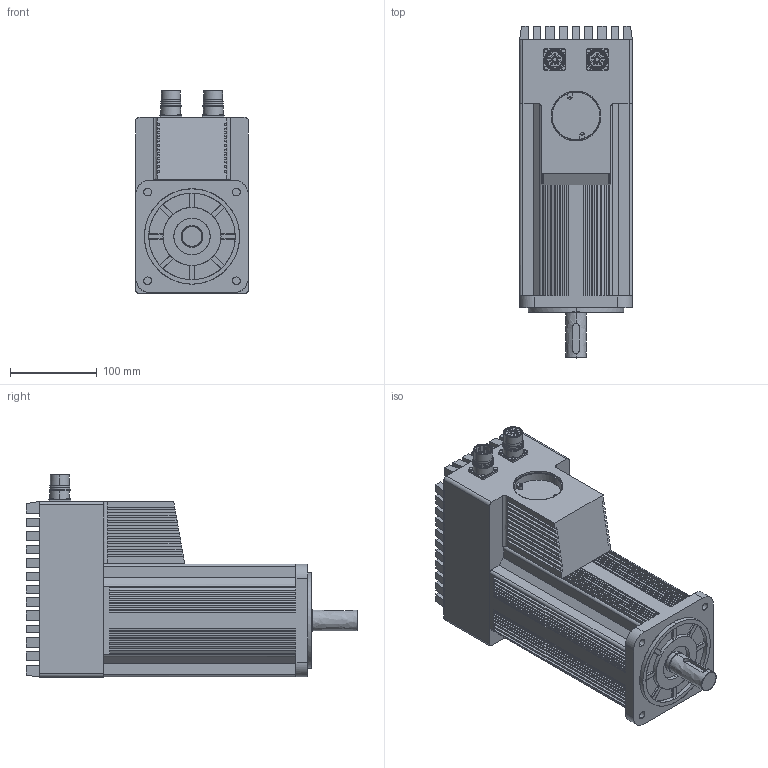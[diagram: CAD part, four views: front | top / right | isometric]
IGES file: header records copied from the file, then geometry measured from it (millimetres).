
Start section: Comment
Global section: file name: MAC3000-D4.igs; native system:  By UGS Corp.; preprocessor: XPlus GENERIC/IGES 3.0; author: Author; organization: Title; date: 20130530.133942; units: millimetre
Bounding box: 130.4 x 383.1 x 233.7 mm (x, y, z)
Surface area: 512752.4 mm2 (no closed solid volume)
Topology: 0 solids, 0 shells, 1304 faces, 6372 edges, 6352 vertices
Faces by surface type: bspline 1304
